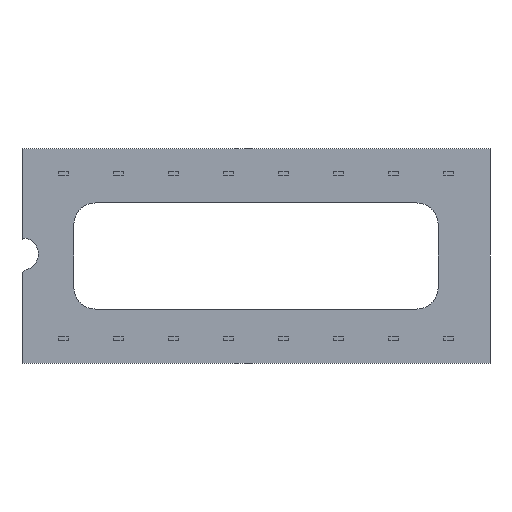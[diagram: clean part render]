
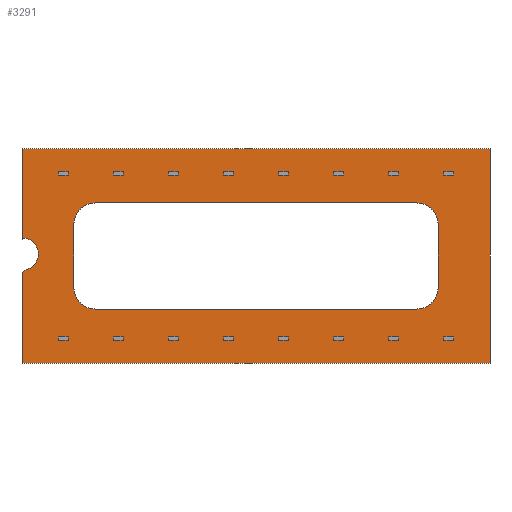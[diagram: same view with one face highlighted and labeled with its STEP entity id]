
A CAD part, front view. The second image highlights one B-rep face of the part: STEP entity #3291.
In plain terms, the highlighted planar face has unit normal (0, -1, 0).
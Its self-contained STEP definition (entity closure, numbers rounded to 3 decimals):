
#2868 = CARTESIAN_POINT ( 'NONE',  ( -10.795, 0., -4.95 ) ) ;
#2869 = VERTEX_POINT ( 'NONE', #2868 ) ;
#2870 = CARTESIAN_POINT ( 'NONE',  ( -10.795, 0., -0.75 ) ) ;
#2871 = VERTEX_POINT ( 'NONE', #2870 ) ;
#2872 = CARTESIAN_POINT ( 'NONE',  ( -10.795, 0., 4.95 ) ) ;
#2873 = DIRECTION ( 'NONE',  ( 0., 0., 1. ) ) ;
#2874 = VECTOR ( 'NONE', #2873, 1000. ) ;
#2875 = LINE ( 'NONE', #2872, #2874 ) ;
#2876 = EDGE_CURVE ( 'NONE', #2869, #2871, #2875, .T. ) ;
#3048 = CARTESIAN_POINT ( 'NONE',  ( 10.795, 0., 4.95 ) ) ;
#3049 = VERTEX_POINT ( 'NONE', #3048 ) ;
#3050 = CARTESIAN_POINT ( 'NONE',  ( 10.795, 0., -4.95 ) ) ;
#3051 = VERTEX_POINT ( 'NONE', #3050 ) ;
#3052 = CARTESIAN_POINT ( 'NONE',  ( 10.795, 0., 4.95 ) ) ;
#3053 = DIRECTION ( 'NONE',  ( 0., 0., -1. ) ) ;
#3054 = VECTOR ( 'NONE', #3053, 1000. ) ;
#3055 = LINE ( 'NONE', #3052, #3054 ) ;
#3056 = EDGE_CURVE ( 'NONE', #3049, #3051, #3055, .T. ) ;
#3111 = CARTESIAN_POINT ( 'NONE',  ( -10.795, 0., -4.95 ) ) ;
#3112 = DIRECTION ( 'NONE',  ( -1., 0., 0. ) ) ;
#3113 = VECTOR ( 'NONE', #3112, 1000. ) ;
#3114 = LINE ( 'NONE', #3111, #3113 ) ;
#3115 = EDGE_CURVE ( 'NONE', #3051, #2869, #3114, .T. ) ;
#3134 = CARTESIAN_POINT ( 'NONE',  ( -10.795, 0., 0.75 ) ) ;
#3135 = VERTEX_POINT ( 'NONE', #3134 ) ;
#3142 = CARTESIAN_POINT ( 'NONE',  ( -10.795, 0., 4.95 ) ) ;
#3143 = VERTEX_POINT ( 'NONE', #3142 ) ;
#3144 = CARTESIAN_POINT ( 'NONE',  ( -10.795, 0., 4.95 ) ) ;
#3145 = DIRECTION ( 'NONE',  ( 0., 0., 1. ) ) ;
#3146 = VECTOR ( 'NONE', #3145, 1000. ) ;
#3147 = LINE ( 'NONE', #3144, #3146 ) ;
#3148 = EDGE_CURVE ( 'NONE', #3135, #3143, #3147, .T. ) ;
#3180 = CARTESIAN_POINT ( 'NONE',  ( -10.795, 0., 4.95 ) ) ;
#3181 = DIRECTION ( 'NONE',  ( 1., 0., 0. ) ) ;
#3182 = VECTOR ( 'NONE', #3181, 1000. ) ;
#3183 = LINE ( 'NONE', #3180, #3182 ) ;
#3184 = EDGE_CURVE ( 'NONE', #3143, #3049, #3183, .T. ) ;
#3202 = CARTESIAN_POINT ( 'NONE',  ( -10.795, 0., 0.09 ) ) ;
#3203 = DIRECTION ( 'NONE',  ( 0., 1., 0. ) ) ;
#3204 = DIRECTION ( 'NONE',  ( 0., 0., 1. ) ) ;
#3205 = AXIS2_PLACEMENT_3D ( 'NONE', #3202, #3203, #3204 ) ;
#3206 = CIRCLE ( 'NONE', #3205, 0.75) ;
#3207 = EDGE_CURVE ( 'NONE', #3135, #2871, #3206, .T. ) ;
#3208 = ORIENTED_EDGE ( 'NONE', *, *, #3207, .T. ) ;
#3209 = ORIENTED_EDGE ( 'NONE', *, *, #2876, .F. ) ;
#3210 = ORIENTED_EDGE ( 'NONE', *, *, #3115, .F. ) ;
#3211 = ORIENTED_EDGE ( 'NONE', *, *, #3056, .F. ) ;
#3212 = ORIENTED_EDGE ( 'NONE', *, *, #3184, .F. ) ;
#3213 = ORIENTED_EDGE ( 'NONE', *, *, #3148, .F. ) ;
#3214 = EDGE_LOOP ( 'NONE', ( #3208, #3209, #3210, #3211, #3212, #3213 ) ) ;
#3215 = FACE_OUTER_BOUND ( 'NONE', #3214, .T. ) ;
#3216 = CARTESIAN_POINT ( 'NONE',  ( 7.405, 0., -2.45 ) ) ;
#3217 = VERTEX_POINT ( 'NONE', #3216 ) ;
#3218 = CARTESIAN_POINT ( 'NONE',  ( -7.405, 0., -2.45 ) ) ;
#3219 = VERTEX_POINT ( 'NONE', #3218 ) ;
#3220 = CARTESIAN_POINT ( 'NONE',  ( 8.405, 0., -2.45 ) ) ;
#3221 = DIRECTION ( 'NONE',  ( -1., 0., 0. ) ) ;
#3222 = VECTOR ( 'NONE', #3221, 1000. ) ;
#3223 = LINE ( 'NONE', #3220, #3222 ) ;
#3224 = EDGE_CURVE ( 'NONE', #3217, #3219, #3223, .T. ) ;
#3225 = ORIENTED_EDGE ( 'NONE', *, *, #3224, .T. ) ;
#3226 = CARTESIAN_POINT ( 'NONE',  ( -8.405, 0., -1.45 ) ) ;
#3227 = VERTEX_POINT ( 'NONE', #3226 ) ;
#3228 = CARTESIAN_POINT ( 'NONE',  ( -7.405, 0., -1.45 ) ) ;
#3229 = DIRECTION ( 'NONE',  ( 0., 1., 0. ) ) ;
#3230 = DIRECTION ( 'NONE',  ( 0., 0., -1. ) ) ;
#3231 = AXIS2_PLACEMENT_3D ( 'NONE', #3228, #3229, #3230 ) ;
#3232 = CIRCLE ( 'NONE', #3231, 1.0) ;
#3233 = EDGE_CURVE ( 'NONE', #3219, #3227, #3232, .T. ) ;
#3234 = ORIENTED_EDGE ( 'NONE', *, *, #3233, .T. ) ;
#3235 = CARTESIAN_POINT ( 'NONE',  ( -8.405, 0., 1.45 ) ) ;
#3236 = VERTEX_POINT ( 'NONE', #3235 ) ;
#3237 = CARTESIAN_POINT ( 'NONE',  ( -8.405, 0., 2.45 ) ) ;
#3238 = DIRECTION ( 'NONE',  ( 0., 0., 1. ) ) ;
#3239 = VECTOR ( 'NONE', #3238, 1000. ) ;
#3240 = LINE ( 'NONE', #3237, #3239 ) ;
#3241 = EDGE_CURVE ( 'NONE', #3227, #3236, #3240, .T. ) ;
#3242 = ORIENTED_EDGE ( 'NONE', *, *, #3241, .T. ) ;
#3243 = CARTESIAN_POINT ( 'NONE',  ( -7.405, 0., 2.45 ) ) ;
#3244 = VERTEX_POINT ( 'NONE', #3243 ) ;
#3245 = CARTESIAN_POINT ( 'NONE',  ( -7.405, 0., 1.45 ) ) ;
#3246 = DIRECTION ( 'NONE',  ( 0., 1., 0. ) ) ;
#3247 = DIRECTION ( 'NONE',  ( 0., 0., -1. ) ) ;
#3248 = AXIS2_PLACEMENT_3D ( 'NONE', #3245, #3246, #3247 ) ;
#3249 = CIRCLE ( 'NONE', #3248, 1.0) ;
#3250 = EDGE_CURVE ( 'NONE', #3236, #3244, #3249, .T. ) ;
#3251 = ORIENTED_EDGE ( 'NONE', *, *, #3250, .T. ) ;
#3252 = CARTESIAN_POINT ( 'NONE',  ( 7.405, 0., 2.45 ) ) ;
#3253 = VERTEX_POINT ( 'NONE', #3252 ) ;
#3254 = CARTESIAN_POINT ( 'NONE',  ( 8.405, 0., 2.45 ) ) ;
#3255 = DIRECTION ( 'NONE',  ( 1., 0., 0. ) ) ;
#3256 = VECTOR ( 'NONE', #3255, 1000. ) ;
#3257 = LINE ( 'NONE', #3254, #3256 ) ;
#3258 = EDGE_CURVE ( 'NONE', #3244, #3253, #3257, .T. ) ;
#3259 = ORIENTED_EDGE ( 'NONE', *, *, #3258, .T. ) ;
#3260 = CARTESIAN_POINT ( 'NONE',  ( 8.405, 0., 1.45 ) ) ;
#3261 = VERTEX_POINT ( 'NONE', #3260 ) ;
#3262 = CARTESIAN_POINT ( 'NONE',  ( 7.405, 0., 1.45 ) ) ;
#3263 = DIRECTION ( 'NONE',  ( 0., 1., 0. ) ) ;
#3264 = DIRECTION ( 'NONE',  ( 0., 0., -1. ) ) ;
#3265 = AXIS2_PLACEMENT_3D ( 'NONE', #3262, #3263, #3264 ) ;
#3266 = CIRCLE ( 'NONE', #3265, 1.0) ;
#3267 = EDGE_CURVE ( 'NONE', #3253, #3261, #3266, .T. ) ;
#3268 = ORIENTED_EDGE ( 'NONE', *, *, #3267, .T. ) ;
#3269 = CARTESIAN_POINT ( 'NONE',  ( 8.405, 0., -1.45 ) ) ;
#3270 = VERTEX_POINT ( 'NONE', #3269 ) ;
#3271 = CARTESIAN_POINT ( 'NONE',  ( 8.405, 0., 2.45 ) ) ;
#3272 = DIRECTION ( 'NONE',  ( 0., 0., -1. ) ) ;
#3273 = VECTOR ( 'NONE', #3272, 1000. ) ;
#3274 = LINE ( 'NONE', #3271, #3273 ) ;
#3275 = EDGE_CURVE ( 'NONE', #3261, #3270, #3274, .T. ) ;
#3276 = ORIENTED_EDGE ( 'NONE', *, *, #3275, .T. ) ;
#3277 = CARTESIAN_POINT ( 'NONE',  ( 7.405, 0., -1.45 ) ) ;
#3278 = DIRECTION ( 'NONE',  ( 0., 1., 0. ) ) ;
#3279 = DIRECTION ( 'NONE',  ( 0., 0., -1. ) ) ;
#3280 = AXIS2_PLACEMENT_3D ( 'NONE', #3277, #3278, #3279 ) ;
#3281 = CIRCLE ( 'NONE', #3280, 1.0) ;
#3282 = EDGE_CURVE ( 'NONE', #3270, #3217, #3281, .T. ) ;
#3283 = ORIENTED_EDGE ( 'NONE', *, *, #3282, .T. ) ;
#3284 = EDGE_LOOP ( 'NONE', ( #3225, #3234, #3242, #3251, #3259, #3268, #3276, #3283 ) ) ;
#3285 = FACE_BOUND ( 'NONE', #3284, .T. ) ;
#3286 = CARTESIAN_POINT ( 'NONE',  ( 0., 0., 0. ) ) ;
#3287 = DIRECTION ( 'NONE',  ( 0., -1., 0. ) ) ;
#3288 = DIRECTION ( 'NONE',  ( 0., 0., -1. ) ) ;
#3289 = AXIS2_PLACEMENT_3D ( 'NONE', #3286, #3287, #3288 ) ;
#3290 = PLANE ( 'NONE', #3289 ) ;
#3291 = ADVANCED_FACE ( 'NONE', ( #3215, #3285 ), #3290, .T. ) ;
